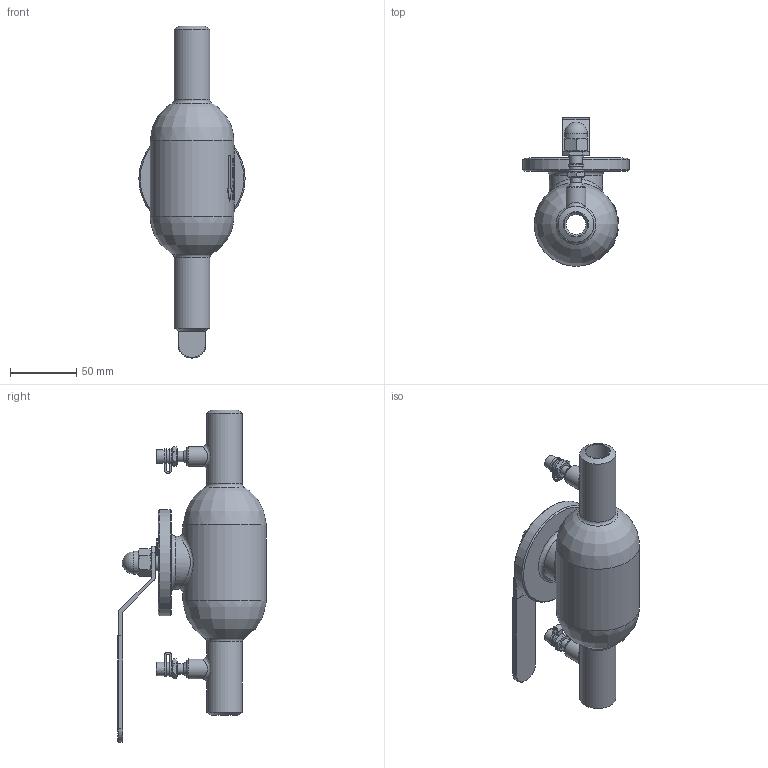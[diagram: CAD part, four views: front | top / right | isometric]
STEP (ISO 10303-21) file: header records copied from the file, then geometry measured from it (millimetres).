
FILE_DESCRIPTION(('STEP AP214'), '1');
FILE_NAME('BVR3232P-SP-W-H Êðàí øàðîâîé ðåãóëèðóþùèé DN.ru Äó20 Py40', '', ('UNSPECIFIED'), ('UNSPECIFIED'), 'C3D Converter', 'C3D Toolkit', '');
FILE_SCHEMA(('AUTOMOTIVE_DESIGN { 1 0 10303 214 3 1 1}'));
Length unit declared in the file: millimetre
Products named in the file (1): BVR3232P-SP-W-H
Bounding box: 80 x 112 x 250 mm (x, y, z)
Volume: 404179.7 mm3; surface area: 69669.4 mm2
Topology: 1 solids, 1 shells, 842 faces, 2168 edges, 1437 vertices
Faces by surface type: plane 417, bspline 183, extrusion 127, cylinder 87, cone 18, torus 7, revolution 2, sphere 1
Full cylindrical faces by diameter (mm): 8 x10, 10 x4, 12 x1, 15 x3, 17 x1, 18 x2, 27 x2, 40 x1, 63 x1, 80 x1
Entity records: 84557 total; most frequent: CARTESIAN_POINT 64671, ORIENTED_EDGE 4226, DIRECTION 2767, EDGE_CURVE 2113, VERTEX_POINT 1435, VECTOR 1201, LINE 1074, EDGE_LOOP 1010
